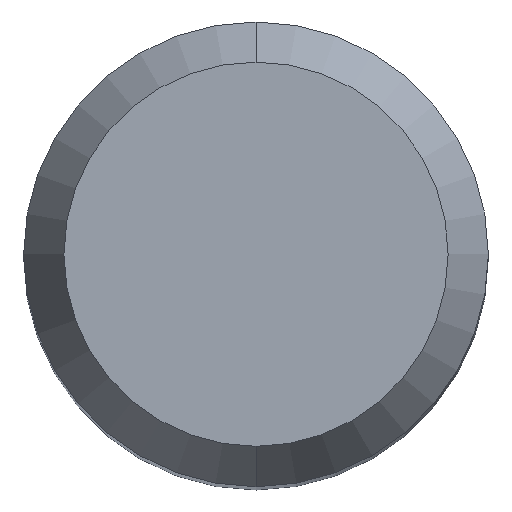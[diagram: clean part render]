
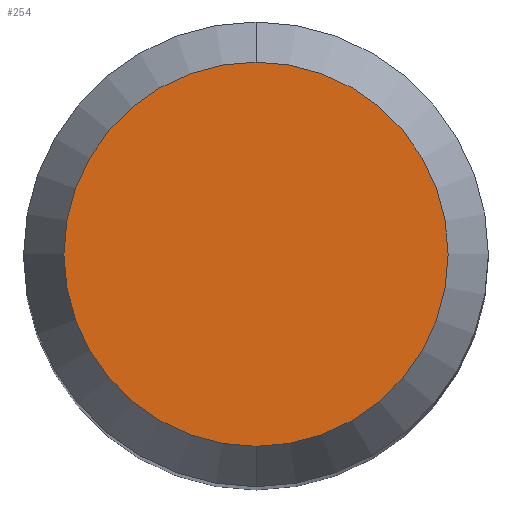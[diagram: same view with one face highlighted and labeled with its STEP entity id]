
A CAD part, top view. The second image highlights one B-rep face of the part: STEP entity #254.
In plain terms, the highlighted free-form (B-spline) face has degree [1, 1] with [2, 2] control points.
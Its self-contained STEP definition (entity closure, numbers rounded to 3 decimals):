
#37=CARTESIAN_POINT('',(0.,0.,0.));
#38=DIRECTION('',(0.,0.,1.));
#39=DIRECTION('',(0.,1.,0.));
#40=AXIS2_PLACEMENT_3D('',#37,#38,#39);
#42=CARTESIAN_POINT('',(0.,0.,0.));
#43=DIRECTION('',(0.,0.,-1.));
#44=DIRECTION('',(0.,1.,0.));
#45=AXIS2_PLACEMENT_3D('',#42,#43,#44);
#150=CARTESIAN_POINT('',(0.,4.134,0.));
#152=VERTEX_POINT('',#150);
#154=CARTESIAN_POINT('',(0.,-4.134,0.));
#156=VERTEX_POINT('',#154);
#245=CARTESIAN_POINT('',(4.3,4.299,0.));
#246=CARTESIAN_POINT('',(-4.3,4.299,0.));
#247=CARTESIAN_POINT('',(4.3,-4.299,0.));
#248=CARTESIAN_POINT('',(-4.3,-4.299,0.));
#249=B_SPLINE_SURFACE_WITH_KNOTS('',1,1,((#245,#246),(#247,#248)),.UNSPECIFIED.,
.F.,.F.,.F.,(2,2),(2,2),(-4.299,4.299),(-4.3,
4.3),.UNSPECIFIED.);
#250=ORIENTED_EDGE('',*,*,#230,.F.);
#251=ORIENTED_EDGE('',*,*,#198,.T.);
#252=EDGE_LOOP('',(#250,#251));
#253=FACE_OUTER_BOUND('',#252,.F.);
#41=CIRCLE('',#40,4.134);
#46=CIRCLE('',#45,4.134);
#198=EDGE_CURVE('',#152,#156,#46,.T.);
#230=EDGE_CURVE('',#152,#156,#41,.T.);
#254=ADVANCED_FACE('',(#253),#249,.F.);
